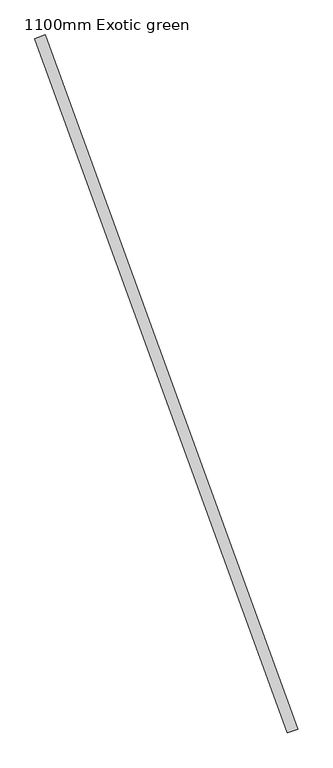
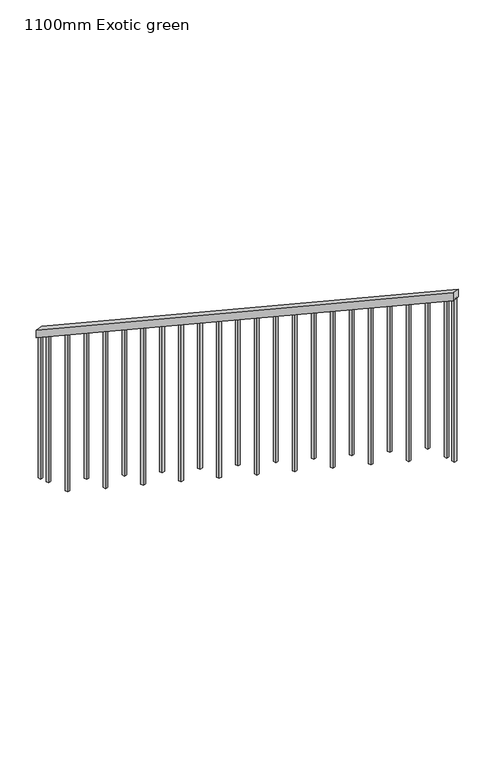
"""IFC4 building model written with IfcOpenShell, lengths in millimetres: railing geometry, 1100mm Exotic green."""

import ifcopenshell
import ifcopenshell.guid

model = None  # the IFC model being written
_history = None  # IfcOwnerHistory: only IFC2X3 demands one
_inside = {}  # id of a spatial element -> (the spatial element, [elements in it])
_under = {}  # id of a project, library or spatial element -> (it, [spatial elements below it])
_declared = {}  # id of a project -> (the project, [libraries it declares])
_typed = {}  # id of a type object -> (the type object, [elements of that type])
_made_of = {}  # id of a material, layer set ... -> (it, [elements and type objects made of it])


def new_model(schema):
    """Start an empty IFC model of exactly this schema.

    Asked for "IFC4X3", IfcOpenShell would pick the latest addendum, in which some entities
    have other attributes; the version numbers below select the first issue.
    IFC2X3 requires an IfcOwnerHistory on every rooted entity: one is made here for all.
    """
    global model, _history
    if schema == "IFC4X3":
        model = ifcopenshell.file(schema_version=(4, 3, 0, 0))
    else:
        model = ifcopenshell.file(schema=schema)
    _inside.clear()
    _under.clear()
    _declared.clear()
    _typed.clear()
    _made_of.clear()
    _history = None
    if model.schema == "IFC2X3":
        org = make("IfcOrganization", Name="unknown")
        user = make(
            "IfcPersonAndOrganization",
            ThePerson=make("IfcPerson", FamilyName="unknown"),
            TheOrganization=org,
        )
        app = make(
            "IfcApplication",
            ApplicationDeveloper=org,
            Version="unknown",
            ApplicationFullName="unknown",
            ApplicationIdentifier="unknown",
        )
        _history = make(
            "IfcOwnerHistory",
            OwningUser=user,
            OwningApplication=app,
            ChangeAction="ADDED",
            CreationDate=0,
        )
    return model


def make(cls, **values):
    """One entity of the class cls with the attributes given. An attribute that is None is left unset."""
    return model.create_entity(
        cls, **{name: value for name, value in values.items() if value is not None}
    )


def rooted(cls, **values):
    """An entity with a GlobalId (a new one), such as an element, a storey or a relation."""
    return make(cls, GlobalId=ifcopenshell.guid.new(), OwnerHistory=_history, **values)


def si_unit(unit_type, name, prefix=None):
    """IfcSIUnit, for example si_unit("LENGTHUNIT", "METRE", prefix="MILLI")."""
    return make("IfcSIUnit", UnitType=unit_type, Prefix=prefix, Name=name)


def assignment(units):
    """IfcUnitAssignment: the units of a project."""
    return None if units is None else make("IfcUnitAssignment", Units=units)


def point(xyz):
    """IfcCartesianPoint."""
    return None if xyz is None else make("IfcCartesianPoint", Coordinates=xyz)


def direction(xyz):
    """IfcDirection."""
    return None if xyz is None else make("IfcDirection", DirectionRatios=xyz)


def frame(location, z_axis=None, x_axis=None):
    """IfcAxis2Placement3D, a coordinate frame: its origin and axes. An axis left out is left unset."""
    return make(
        "IfcAxis2Placement3D",
        Location=point(location),
        Axis=direction(z_axis),
        RefDirection=direction(x_axis),
    )


def origin():
    """The frame at (0, 0, 0) with its axes left unset."""
    return frame((0.0, 0.0, 0.0))


def place(relative_to, where):
    """IfcLocalPlacement: puts the frame where relative to a parent placement (None: the world)."""
    return make(
        "IfcLocalPlacement", PlacementRelTo=relative_to, RelativePlacement=where
    )


def context(
    kind, dimensions, precision=None, world=None, true_north=None, identifier=None
):
    """IfcGeometricRepresentationContext, for example the 3D "Model" context."""
    return make(
        "IfcGeometricRepresentationContext",
        ContextIdentifier=identifier,
        ContextType=kind,
        CoordinateSpaceDimension=dimensions,
        Precision=precision,
        WorldCoordinateSystem=world,
        TrueNorth=true_north,
    )


def project(units=None, contexts=None):
    """IfcProject with its units and contexts."""
    return rooted(
        "IfcProject",
        Name="project",
        RepresentationContexts=contexts,
        UnitsInContext=assignment(units),
    )


def spatial(cls, under=None, at=None, **own):
    """A site, building, storey or space (cls), placed at a placement, below another one or the project."""
    s = rooted(cls, ObjectPlacement=at, **own)
    if under is not None:
        _under.setdefault(under.id(), (under, []))[1].append(s)
    return s


def polyline(points):
    """IfcPolyline through the points."""
    return make("IfcPolyline", Points=[point(p) for p in points])


def outline(outer, holes=None, kind="AREA"):
    """IfcArbitraryClosedProfileDef: a profile drawn as a closed curve; with holes, ...WithVoids."""
    if holes is None:
        return make("IfcArbitraryClosedProfileDef", ProfileType=kind, OuterCurve=outer)
    return make(
        "IfcArbitraryProfileDefWithVoids",
        ProfileType=kind,
        OuterCurve=outer,
        InnerCurves=holes,
    )


def extrude(swept, where, along, depth):
    """IfcExtrudedAreaSolid: the profile swept, set in the frame where, extruded along a direction by depth."""
    return make(
        "IfcExtrudedAreaSolid",
        SweptArea=swept,
        Position=where,
        ExtrudedDirection=direction(along),
        Depth=depth,
    )


def shape(context_of_items, identifier, shape_type, items):
    """IfcShapeRepresentation: the items that make up one representation, for example the "Body"."""
    return make(
        "IfcShapeRepresentation",
        ContextOfItems=context_of_items,
        RepresentationIdentifier=identifier,
        RepresentationType=shape_type,
        Items=items,
    )


def source(mapping_origin, context_of_items, identifier, shape_type, items):
    """IfcRepresentationMap: a shape defined once, which mapped items show again and again."""
    return make(
        "IfcRepresentationMap",
        MappingOrigin=mapping_origin,
        MappedRepresentation=shape(context_of_items, identifier, shape_type, items),
    )


def transform(
    local_origin,
    x_axis=None,
    y_axis=None,
    z_axis=None,
    scale=None,
    scale2=None,
    scale3=None,
    uniform=True,
):
    """IfcCartesianTransformationOperator3D, or its non-uniform kind. x_axis, y_axis, z_axis: its Axis1, 2, 3."""
    if uniform:
        return make(
            "IfcCartesianTransformationOperator3D",
            Axis1=direction(x_axis),
            Axis2=direction(y_axis),
            LocalOrigin=point(local_origin),
            Scale=scale,
            Axis3=direction(z_axis),
        )
    return make(
        "IfcCartesianTransformationOperator3DnonUniform",
        Axis1=direction(x_axis),
        Axis2=direction(y_axis),
        LocalOrigin=point(local_origin),
        Scale=scale,
        Axis3=direction(z_axis),
        Scale2=scale2,
        Scale3=scale3,
    )


def mapped(mapping_source, mapping_target):
    """IfcMappedItem: shows the shape of a source again, moved by a transform."""
    return make(
        "IfcMappedItem", MappingSource=mapping_source, MappingTarget=mapping_target
    )


def made_of(thing, what):
    """Note that an element or type object is made of a material, layer set ...; save() writes the relation."""
    if what is not None:
        _made_of.setdefault(what.id(), (what, []))[1].append(thing)
    return thing


def element(
    cls,
    number,
    at=None,
    inside=None,
    cuts=None,
    type_object=None,
    material=None,
    context=None,
    identifier="Body",
    shape_type=None,
    held_by="IfcProductDefinitionShape",
    body=None,
    shapes=None,
    **own,
):
    """One element of the class cls, such as IfcWall. Its Tag is "e" and its number.

    at: its placement. inside: the storey or other place that contains it. cuts: it is an
    opening in that element (IfcRelVoidsElement). A single representation is given by context,
    identifier, shape_type and body (its items); several are given by shapes. held_by: the class
    of the entity that holds the representations. save() writes the other relations.
    """
    e = rooted(cls, Tag="e%d" % number, ObjectPlacement=at, **own)
    if body is not None:
        shapes = [shape(context, identifier, shape_type, body)]
    if shapes is not None:
        e.Representation = make(held_by, Representations=shapes)
    if inside is not None:
        _inside.setdefault(inside.id(), (inside, []))[1].append(e)
    if cuts is not None:
        rooted(
            "IfcRelVoidsElement", RelatingBuildingElement=cuts, RelatedOpeningElement=e
        )
    if type_object is not None:
        _typed.setdefault(type_object.id(), (type_object, []))[1].append(e)
    return made_of(e, material)


def aggregate(whole, parts):
    """IfcRelAggregates: a whole, such as a stair, and the parts it consists of."""
    return rooted("IfcRelAggregates", RelatingObject=whole, RelatedObjects=parts)


def save(model, path):
    """Write the relations noted so far, then the file.

    IfcRelAggregates (storeys below a building ...), IfcRelContainedInSpatialStructure (elements
    in a storey), IfcRelDefinesByType, IfcRelAssociatesMaterial and IfcRelDeclares: one each for
    every whole, place, type object, material and project.
    """
    for whole, parts in _under.values():
        aggregate(whole, parts)
    for where, things in _inside.values():
        rooted(
            "IfcRelContainedInSpatialStructure",
            RelatedElements=things,
            RelatingStructure=where,
        )
    for kind, things in _typed.values():
        rooted("IfcRelDefinesByType", RelatedObjects=things, RelatingType=kind)
    for what, things in _made_of.values():
        rooted("IfcRelAssociatesMaterial", RelatedObjects=things, RelatingMaterial=what)
    for by, libraries in _declared.values():
        rooted("IfcRelDeclares", RelatingContext=by, RelatedDefinitions=libraries)
    model.write(path)


def railing_1100mm_exotic_green_232f5d4f(model_context):
    return source(origin(), model_context, "Body", "SweptSolid", [
        extrude(outline(polyline([(26.6666666, -49.9999999), (0.0, 0.0), (3739.957264, 1e-07), (3766.6239307, -50.0), (26.6666666, -49.9999999)])), frame((35553.2046253, 12611.0853358, 5303.3534444), z_axis=(0.9396926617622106, 0.34202003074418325, 0.0), x_axis=(0.3017823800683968, -0.8291405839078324, 0.4705882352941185)), (0.0, 0.0, 1.0), 50.0),
        extrude(outline(polyline([(105.3333333, 0.0), (1270.020111, 0.0), (1270.020111, -20.0), (94.6666666, -20.0), (105.3333333, 0.0)])), frame((36666.8944141, 9595.1037287, 7130.020111), z_axis=(0.9396926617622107, 0.3420200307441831, 0.0), x_axis=(0.0, 0.0, -1.0)), (0.0, 0.0, 1.0), 20.0),
        extrude(outline(polyline([(105.3333333, 0.0), (1190.020111, 0.0), (1190.020111, -20.0000001), (94.6666666, -20.0000001), (105.3333333, 0.0)])), frame((36615.5914095, 9736.057628, 7050.020111), z_axis=(0.9396926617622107, 0.3420200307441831, 0.0), x_axis=(0.0, 0.0, -1.0)), (0.0, 0.0, 1.0), 20.0),
        extrude(outline(polyline([(105.3333333, 0.0), (1270.020111, 0.0), (1270.020111, -20.0), (94.6666666, -20.0), (105.3333333, 0.0)])), frame((36564.2884049, 9877.0115272, 6970.020111), z_axis=(0.9396926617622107, 0.3420200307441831, 0.0), x_axis=(0.0, 0.0, -1.0)), (0.0, 0.0, 1.0), 20.0),
        extrude(outline(polyline([(105.3333333, 0.0), (1190.020111, 0.0), (1190.020111, -20.0), (94.6666666, -20.0), (105.3333333, 0.0)])), frame((36512.9854003, 10017.9654265, 6890.020111), z_axis=(0.9396926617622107, 0.3420200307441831, 0.0), x_axis=(0.0, 0.0, -1.0)), (0.0, 0.0, 1.0), 20.0),
        extrude(outline(polyline([(105.3333333, 0.0), (1270.020111, 0.0), (1270.020111, -20.0000001), (94.6666666, -20.0000001), (105.3333333, 0.0)])), frame((36461.6823957, 10158.9193258, 6810.020111), z_axis=(0.9396926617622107, 0.3420200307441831, 0.0), x_axis=(0.0, 0.0, -1.0)), (0.0, 0.0, 1.0), 20.0),
        extrude(outline(polyline([(105.3333333, 0.0), (1190.020111, 0.0), (1190.020111, -20.0), (94.6666666, -20.0), (105.3333333, 0.0)])), frame((36410.3793911, 10299.873225, 6730.020111), z_axis=(0.9396926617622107, 0.3420200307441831, 0.0), x_axis=(0.0, 0.0, -1.0)), (0.0, 0.0, 1.0), 20.0),
        extrude(outline(polyline([(105.3333333, 0.0), (1270.020111, 0.0), (1270.020111, -20.0), (94.6666666, -20.0), (105.3333333, 0.0)])), frame((36359.0763864, 10440.8271243, 6650.020111), z_axis=(0.9396926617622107, 0.3420200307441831, 0.0), x_axis=(0.0, 0.0, -1.0)), (0.0, 0.0, 1.0), 20.0),
        extrude(outline(polyline([(105.3333333, 0.0), (1190.020111, 0.0), (1190.020111, -20.0000001), (94.6666666, -20.0000001), (105.3333333, 0.0)])), frame((36307.7733818, 10581.7810236, 6570.020111), z_axis=(0.9396926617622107, 0.3420200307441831, 0.0), x_axis=(0.0, 0.0, -1.0)), (0.0, 0.0, 1.0), 20.0),
        extrude(outline(polyline([(105.3333333, 0.0), (1270.020111, 0.0), (1270.020111, -20.0), (94.6666666, -20.0), (105.3333333, 0.0)])), frame((36256.4703772, 10722.7349228, 6490.020111), z_axis=(0.9396926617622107, 0.3420200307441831, 0.0), x_axis=(0.0, 0.0, -1.0)), (0.0, 0.0, 1.0), 20.0),
        extrude(outline(polyline([(105.3333333, 0.0), (1190.020111, 0.0), (1190.020111, -20.0), (94.6666666, -20.0), (105.3333333, 0.0)])), frame((36205.1673726, 10863.6888221, 6410.020111), z_axis=(0.9396926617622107, 0.3420200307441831, 0.0), x_axis=(0.0, 0.0, -1.0)), (0.0, 0.0, 1.0), 20.0),
        extrude(outline(polyline([(105.3333333, 0.0), (1270.020111, 0.0), (1270.020111, -20.0000001), (94.6666666, -20.0000001), (105.3333333, 0.0)])), frame((36153.864368, 11004.6427214, 6330.020111), z_axis=(0.9396926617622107, 0.3420200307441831, 0.0), x_axis=(0.0, 0.0, -1.0)), (0.0, 0.0, 1.0), 20.0),
        extrude(outline(polyline([(105.3333333, 0.0), (1190.020111, 0.0), (1190.020111, -20.0), (94.6666666, -20.0), (105.3333333, 0.0)])), frame((36102.5613634, 11145.5966206, 6250.020111), z_axis=(0.9396926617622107, 0.3420200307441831, 0.0), x_axis=(0.0, 0.0, -1.0)), (0.0, 0.0, 1.0), 20.0),
        extrude(outline(polyline([(105.3333333, 0.0), (1270.020111, 0.0), (1270.020111, -20.0), (94.6666666, -20.0), (105.3333333, 0.0)])), frame((36051.2583588, 11286.5505199, 6170.020111), z_axis=(0.9396926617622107, 0.3420200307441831, 0.0), x_axis=(0.0, 0.0, -1.0)), (0.0, 0.0, 1.0), 20.0),
        extrude(outline(polyline([(105.3333333, 0.0), (1190.020111, 0.0), (1190.020111, -20.0000001), (94.6666666, -20.0000001), (105.3333333, 0.0)])), frame((35999.9553542, 11427.5044192, 6090.020111), z_axis=(0.9396926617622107, 0.3420200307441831, 0.0), x_axis=(0.0, 0.0, -1.0)), (0.0, 0.0, 1.0), 20.0),
        extrude(outline(polyline([(105.3333333, 0.0), (1270.020111, 0.0), (1270.020111, -20.0), (94.6666666, -20.0), (105.3333333, 0.0)])), frame((35948.6523496, 11568.4583184, 6010.020111), z_axis=(0.9396926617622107, 0.3420200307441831, 0.0), x_axis=(0.0, 0.0, -1.0)), (0.0, 0.0, 1.0), 20.0),
        extrude(outline(polyline([(105.3333333, 0.0), (1190.020111, 0.0), (1190.020111, -20.0000001), (94.6666666, -20.0000001), (105.3333333, 0.0)])), frame((35897.3493449, 11709.4122177, 5930.020111), z_axis=(0.9396926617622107, 0.3420200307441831, 0.0), x_axis=(0.0, 0.0, -1.0)), (0.0, 0.0, 1.0), 20.0),
        extrude(outline(polyline([(105.3333333, 0.0), (1270.020111, 0.0), (1270.020111, -20.0), (94.6666666, -20.0), (105.3333333, 0.0)])), frame((35846.0463403, 11850.3661169, 5850.020111), z_axis=(0.9396926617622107, 0.3420200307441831, 0.0), x_axis=(0.0, 0.0, -1.0)), (0.0, 0.0, 1.0), 20.0),
        extrude(outline(polyline([(105.3333333, 0.0), (1190.020111, 0.0), (1190.020111, -20.0), (94.6666666, -20.0), (105.3333333, 0.0)])), frame((35794.7433357, 11991.3200162, 5770.020111), z_axis=(0.9396926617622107, 0.3420200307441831, 0.0), x_axis=(0.0, 0.0, -1.0)), (0.0, 0.0, 1.0), 20.0),
        extrude(outline(polyline([(105.3333333, 0.0), (1270.020111, 0.0), (1270.020111, -20.0000001), (94.6666666, -20.0000001), (105.3333333, 0.0)])), frame((35743.4403311, 12132.2739155, 5690.020111), z_axis=(0.9396926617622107, 0.3420200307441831, 0.0), x_axis=(0.0, 0.0, -1.0)), (0.0, 0.0, 1.0), 20.0),
        extrude(outline(polyline([(105.3333333, 0.0), (1190.020111, 0.0), (1190.020111, -20.0), (94.6666666, -20.0), (105.3333333, 0.0)])), frame((35692.1373265, 12273.2278147, 5610.020111), z_axis=(0.9396926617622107, 0.3420200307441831, 0.0), x_axis=(0.0, 0.0, -1.0)), (0.0, 0.0, 1.0), 20.0),
        extrude(outline(polyline([(105.3333333, 0.0), (1270.020111, 0.0), (1270.020111, -20.0), (94.6666666, -20.0), (105.3333333, 0.0)])), frame((35640.8343219, 12414.181714, 5530.020111), z_axis=(0.9396926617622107, 0.3420200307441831, 0.0), x_axis=(0.0, 0.0, -1.0)), (0.0, 0.0, 1.0), 20.0),
        extrude(outline(polyline([(105.3333333, 0.0), (1190.020111, 0.0), (1190.020111, -20.0000001), (94.6666666, -20.0000001), (105.3333333, 0.0)])), frame((35589.5313173, 12555.1356133, 5450.020111), z_axis=(0.9396926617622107, 0.3420200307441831, 0.0), x_axis=(0.0, 0.0, -1.0)), (0.0, 0.0, 1.0), 20.0),
        extrude(outline(polyline([(105.3333333, 0.0), (1303.3333333, 0.0), (1303.3333333, -20.0), (94.6666666, -20.0), (105.3333333, 0.0)])), frame((36688.2577691, 9536.4083714, 7163.3333333), z_axis=(0.9396926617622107, 0.3420200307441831, 0.0), x_axis=(0.0, 0.0, -1.0)), (0.0, 0.0, 1.0), 20.0),
        extrude(outline(polyline([(105.3333333, 0.0), (1156.6867777, 0.0), (1156.6867777, -20.0), (94.6666667, -20.0), (105.3333333, 0.0)])), frame((35568.1550654, 12613.8664046, 5416.6867777), z_axis=(0.9396926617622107, 0.3420200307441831, 0.0), x_axis=(0.0, 0.0, -1.0)), (0.0, 0.0, 1.0), 20.0),
    ])


if __name__ == "__main__":
    model = new_model("IFC4")
    model_context = context("Model", 3, world=origin())
    ifc_project = project(units=[si_unit("LENGTHUNIT", "METRE", prefix="MILLI")], contexts=[model_context])
    site = spatial("IfcSite", under=ifc_project)
    building = spatial("IfcBuilding", under=site)
    placement = place(None, origin())
    railing_1100mm_exotic_green_shape = railing_1100mm_exotic_green_232f5d4f(model_context)
    element("IfcRailing", 1, ObjectType="1100mm Exotic green", at=placement, inside=building, context=model_context, shape_type="MappedRepresentation", body=[
        mapped(railing_1100mm_exotic_green_shape, transform((0.0, 0.0, 0.0), x_axis=(1.0, 0.0, 0.0), y_axis=(0.0, 1.0, 0.0), z_axis=(0.0, 0.0, 1.0))),
    ])
    save(model, "model.ifc")
